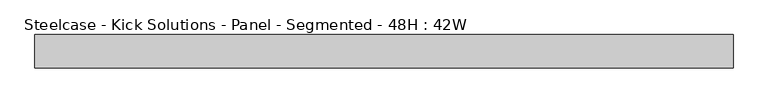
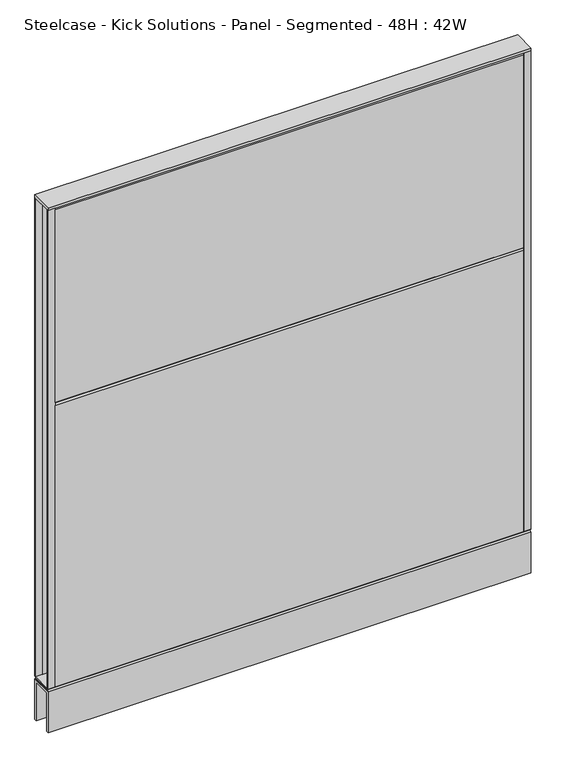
"""IFC4 building model written with IfcOpenShell, lengths in millimetres: furniture geometry, Steelcase - Kick Solutions - Panel - Segmented - 48H : 42W."""

from ifc_helpers import new_model, si_unit, frame, origin, place, context, project, spatial, polyline, outline, extrude, source, transform, mapped, element, save


def steelcase_kick_solutions_panel_segmented_48h_42w_41d17ce1(model_context):
    return source(origin(), model_context, "Body", "SweptSolid", [
        extrude(outline(polyline([(1.5e-06, 101.600003), (-3.175, 101.600003), (-3.175, 1219.2), (1.5e-06, 1216.1188448), (1.5e-06, 101.600003)])), frame((15.8749996, 0.0, 0.0), z_axis=(1.0, 0.0, 0.0), x_axis=(0.0, 1.0, 0.0)), (0.0, 0.0, 1.0), 1035.0500008),
        extrude(outline(polyline([(-50.8000015, 765.0811552), (-50.8000015, 1216.1188448), (-47.625, 1219.2), (-47.625, 762.0), (-50.8000015, 765.0811552)])), frame((15.8749996, 0.0, 0.0), z_axis=(1.0, 0.0, 0.0), x_axis=(0.0, 1.0, 0.0)), (0.0, 0.0, 1.0), 1035.0500008),
        extrude(outline(polyline([(-50.8000015, 101.600003), (-50.8000015, 758.9188448), (-47.625, 762.0), (-47.625, 101.600003), (-50.8000015, 101.600003)])), frame((15.8749996, 0.0, 0.0), z_axis=(1.0, 0.0, 0.0), x_axis=(0.0, 1.0, 0.0)), (0.0, 0.0, 1.0), 1035.0500008),
        extrude(outline(polyline([(1066.8, -3.1750015), (1050.9250004, -3.1750015), (1050.9250004, 0.0), (1066.8, 0.0), (1066.8, -3.1750015)])), frame((0.0, 0.0, 101.7169049), z_axis=(0.0, 0.0, 1.0), x_axis=(1.0, 0.0, 0.0)), (0.0, 0.0, 1.0), 1117.599997),
        extrude(outline(polyline([(15.8749996, -50.8000015), (0.0, -50.8000015), (0.0, -47.625), (15.8749996, -47.625), (15.8749996, -50.8000015)])), frame((0.0, 0.0, 101.7169049), z_axis=(0.0, 0.0, 1.0), x_axis=(1.0, 0.0, 0.0)), (0.0, 0.0, 1.0), 1117.599997),
        extrude(outline(polyline([(-50.7995075, 101.7169049), (-0.000494, 101.7169049), (-3.0583512, 98.5421458), (-47.7416503, 98.5421458), (-50.7995075, 101.7169049)])), frame((0.0, 0.0, 0.0), z_axis=(1.0, 0.0, 0.0), x_axis=(0.0, 1.0, 0.0)), (0.0, 0.0, 1.0), 1066.8),
        extrude(outline(polyline([(1066.8, 0.0), (1066.8, -50.8000015), (0.0, -50.8000015), (0.0, 0.0), (1066.8, 0.0)])), frame((0.0, 0.0, 1219.3169018), z_axis=(0.0, 0.0, 1.0), x_axis=(1.0, 0.0, 0.0)), (0.0, 0.0, 1.0), 6.35),
        extrude(outline(polyline([(15.8749996, -3.1750015), (0.0, -3.1750015), (0.0, 0.0), (15.8749996, 0.0), (15.8749996, -3.1750015)])), frame((0.0, 0.0, 101.7169049), z_axis=(0.0, 0.0, 1.0), x_axis=(1.0, 0.0, 0.0)), (0.0, 0.0, 1.0), 1117.599997),
        extrude(outline(polyline([(1066.8, -50.8000015), (1050.9250004, -50.8000015), (1050.9250004, -47.625), (1066.8, -47.625), (1066.8, -50.8000015)])), frame((0.0, 0.0, 101.7169049), z_axis=(0.0, 0.0, 1.0), x_axis=(1.0, 0.0, 0.0)), (0.0, 0.0, 1.0), 1117.599997),
        extrude(outline(polyline([(-50.8000015, 95.3668927), (-47.6247484, 98.5421458), (-3.1752531, 98.5421458), (0.0, 95.3668927), (-50.8000015, 95.3668927)])), frame((0.0, 0.0, 0.0), z_axis=(1.0, 0.0, 0.0), x_axis=(0.0, 1.0, 0.0)), (0.0, 0.0, 1.0), 1066.8),
        extrude(outline(polyline([(0.0, 0.0), (-5.08, 0.0), (-5.08, 90.2869018), (-45.7200015, 90.2869018), (-45.7200015, 0.0), (-50.8000015, 0.0), (-50.8000015, 95.3669018), (0.0, 95.3669018), (0.0, 0.0)])), frame((0.0, 0.0, 0.0), z_axis=(1.0, 0.0, 0.0), x_axis=(0.0, 1.0, 0.0)), (0.0, 0.0, 1.0), 1066.8),
    ])


if __name__ == "__main__":
    model = new_model("IFC4")
    model_context = context("Model", 3, world=origin())
    ifc_project = project(units=[si_unit("LENGTHUNIT", "METRE", prefix="MILLI")], contexts=[model_context])
    site = spatial("IfcSite", under=ifc_project)
    building = spatial("IfcBuilding", under=site)
    placement = place(None, origin())
    steelcase_kick_solutions_panel_segmented_48h_42w_shape = steelcase_kick_solutions_panel_segmented_48h_42w_41d17ce1(model_context)
    element("IfcFurniture", 1, ObjectType="Steelcase - Kick Solutions - Panel - Segmented - 48H : 42W", at=placement, inside=building, context=model_context, shape_type="MappedRepresentation", body=[
        mapped(steelcase_kick_solutions_panel_segmented_48h_42w_shape, transform((0.0, 0.0, 0.0), x_axis=(1.0, 0.0, 0.0), y_axis=(0.0, 1.0, 0.0), z_axis=(0.0, 0.0, 1.0))),
    ])
    save(model, "model.ifc")
